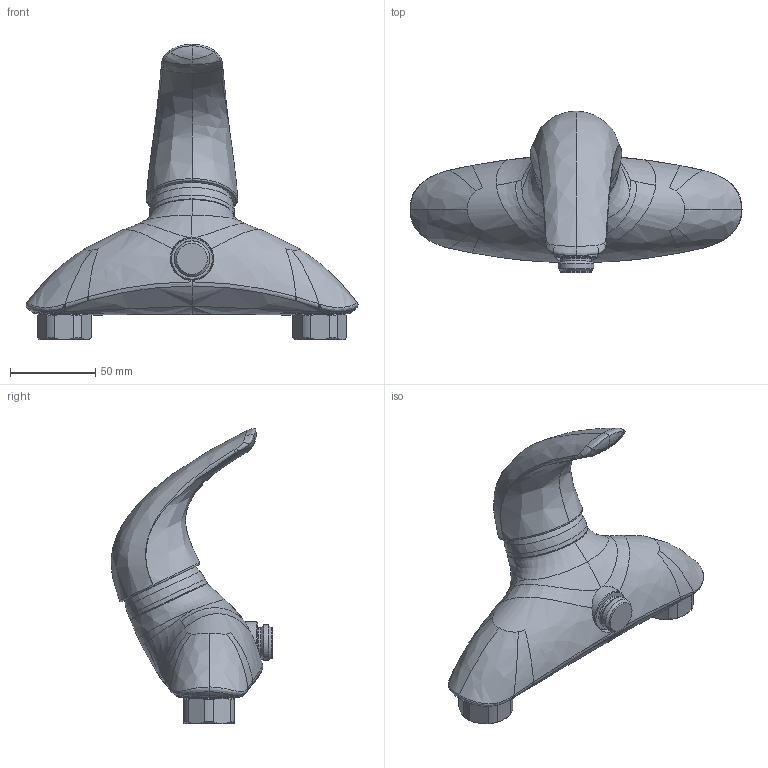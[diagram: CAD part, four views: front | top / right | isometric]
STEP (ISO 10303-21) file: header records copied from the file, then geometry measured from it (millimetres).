
FILE_DESCRIPTION (( 'STEP AP203' ), '1' );
FILE_NAME ('1760.STEP', '2017-03-09T05:43:43', ( '' ), ( '' ), 'SwSTEP 2.0', 'SolidWorks 2016', '' );
FILE_SCHEMA (( 'CONFIG_CONTROL_DESIGN' ));
Length unit declared in the file: millimetre
Products named in the file (1): 1760
Bounding box: 195.08 x 95.05 x 173.46 mm (x, y, z)
Volume: 524460.1 mm3; surface area: 55998.8 mm2
Topology: 1 solids, 1 shells, 200 faces, 467 edges, 288 vertices
Faces by surface type: bspline 105, plane 33, cone 33, cylinder 25, torus 3, sphere 1
Full cylindrical faces by diameter (mm): 12.5 x2, 18 x1, 18.2 x1, 20.955 x1, 21.2 x2, 24 x2, 25 x1, 25.5 x1, 26 x2
Entity records: 19793 total; most frequent: CARTESIAN_POINT 16236, ORIENTED_EDGE 854, EDGE_CURVE 427, DIRECTION 400, B_SPLINE_CURVE_WITH_KNOTS 310, VERTEX_POINT 275, EDGE_LOOP 246, FACE_OUTER_BOUND 219
